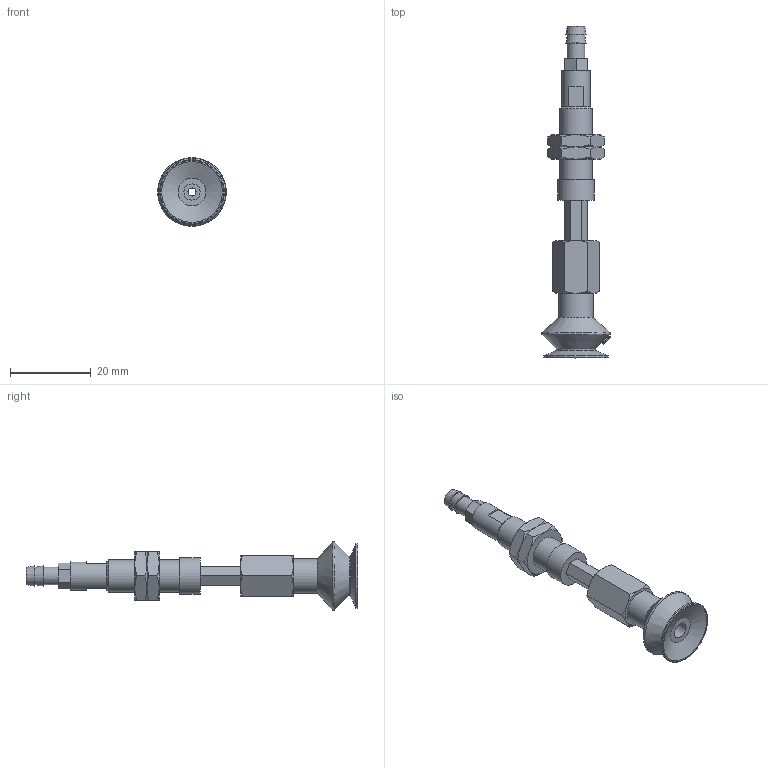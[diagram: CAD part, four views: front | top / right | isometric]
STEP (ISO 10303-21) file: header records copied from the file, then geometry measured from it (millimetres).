
FILE_DESCRIPTION(('STEP AP203'),'1');
FILE_NAME('-T.stp','2025-08-27T00:48:32',(' '),(' '),'Spatial InterOp 3D',' ',' ');
FILE_SCHEMA(('CONFIG_CONTROL_DESIGN'));
Length unit declared in the file: millimetre
Products named in the file (9): BNABPBTH-15A-10-※-T; ADAPTER; NAPATH-10A-10--M; Nut-15A-S-PB; NAPBTH-15A-10-FBODY; BPBG-15A-※; __27; BPBG-15A; T
Assembly tree (9 placements, depth 3):
  BNABPBTH-15A-10-※-T
    ADAPTER
    NAPATH-10A-10--M
    Nut-15A-S-PB  x2
    NAPBTH-15A-10-FBODY
    BPBG-15A-※
      __27
      BPBG-15A
    T
Bounding box: 17 x 82 x 17 mm (x, y, z)
Volume: 4767.9 mm3; surface area: 5304.7 mm2
Topology: 8 solids, 8 shells, 156 faces, 337 edges, 209 vertices
Faces by surface type: plane 66, cone 53, cylinder 18, torus 11, bspline 8
Full cylindrical faces by diameter (mm): 2 x2, 3 x1, 4 x3, 4.134 x1, 4.3 x1, 5 x1, 6 x2, 7 x1, 7.188 x2, 8 x1, 8.5 x1, 9 x1, 16 x1
Entity records: 5079 total; most frequent: CARTESIAN_POINT 2018, DIRECTION 531, ORIENTED_EDGE 472, EDGE_CURVE 236, AXIS2_PLACEMENT_3D 224, EDGE_LOOP 197, VERTEX_POINT 169, FACE_OUTER_BOUND 161
